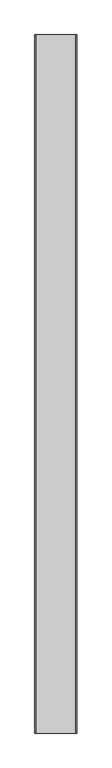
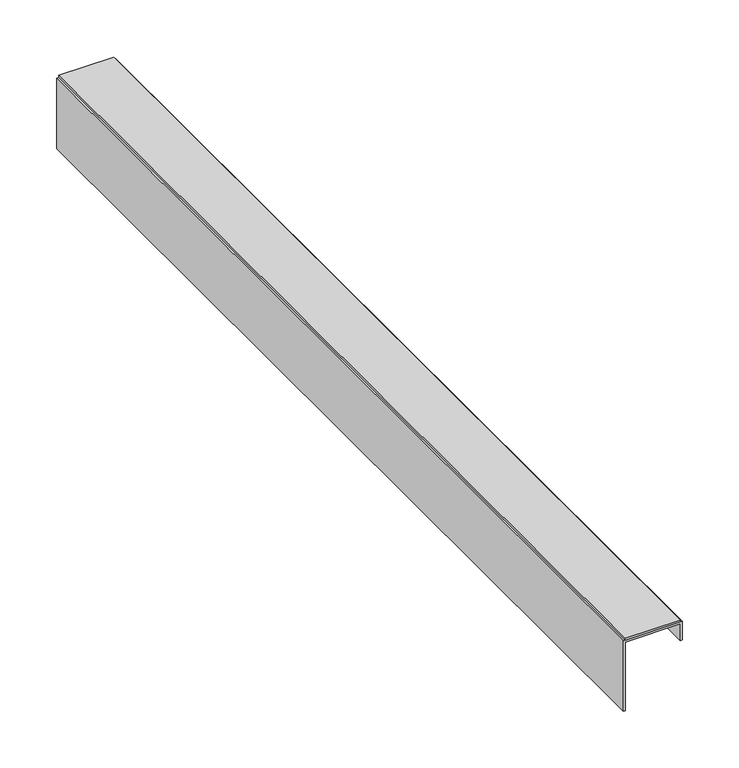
"""IFC4 building model written with IfcOpenShell, lengths in millimetres: proxy geometry, Alubel Alu-Skin Supporting Profile : Alubel Supporting Profile with Dielectric Band."""

from ifc_helpers import new_model, si_unit, frame, origin, place, context, project, spatial, polyline, outline, extrude, source, transform, mapped, element, save


def generic_models_112d27ab(model_context):
    return source(origin(), model_context, "Body", "SweptSolid", [
        extrude(outline(polyline([(28.0, 0.0), (-28.0, 0.0), (-28.0, 1000.0), (28.0, 1000.0), (28.0, 0.0)])), frame((0.0, 0.0, 97.0), z_axis=(0.0, 0.0, 1.0), x_axis=(1.0, 0.0, 0.0)), (0.0, 0.0, 1.0), 2.0),
        extrude(outline(polyline([(97.0, -30.0), (21.0, -30.0), (21.0, -28.0), (95.0, -28.0), (95.0, 28.0), (77.0, 28.0), (77.0, 30.0), (97.0, 30.0), (97.0, -30.0)])), frame((0.0, 0.0, 0.0), z_axis=(0.0, 1.0, 0.0), x_axis=(0.0, 0.0, 1.0)), (0.0, 0.0, 1.0), 1000.0),
    ])


if __name__ == "__main__":
    model = new_model("IFC4")
    model_context = context("Model", 3, world=origin())
    ifc_project = project(units=[si_unit("LENGTHUNIT", "METRE", prefix="MILLI")], contexts=[model_context])
    site = spatial("IfcSite", under=ifc_project)
    building = spatial("IfcBuilding", under=site)
    placement = place(None, origin())
    generic_models_shape = generic_models_112d27ab(model_context)
    element("IfcBuildingElementProxy", 1, Name="Alubel Alu-Skin Supporting Profile : Alubel Supporting Profile with Dielectric Band", ObjectType="Alubel Alu-Skin Supporting Profile : Alubel Supporting Profile with Dielectric Band", at=placement, inside=building, context=model_context, shape_type="MappedRepresentation", body=[
        mapped(generic_models_shape, transform((0.0, 0.0, 0.0), x_axis=(1.0, 0.0, 0.0), y_axis=(0.0, 1.0, 0.0), z_axis=(0.0, 0.0, 1.0))),
    ])
    save(model, "model.ifc")
